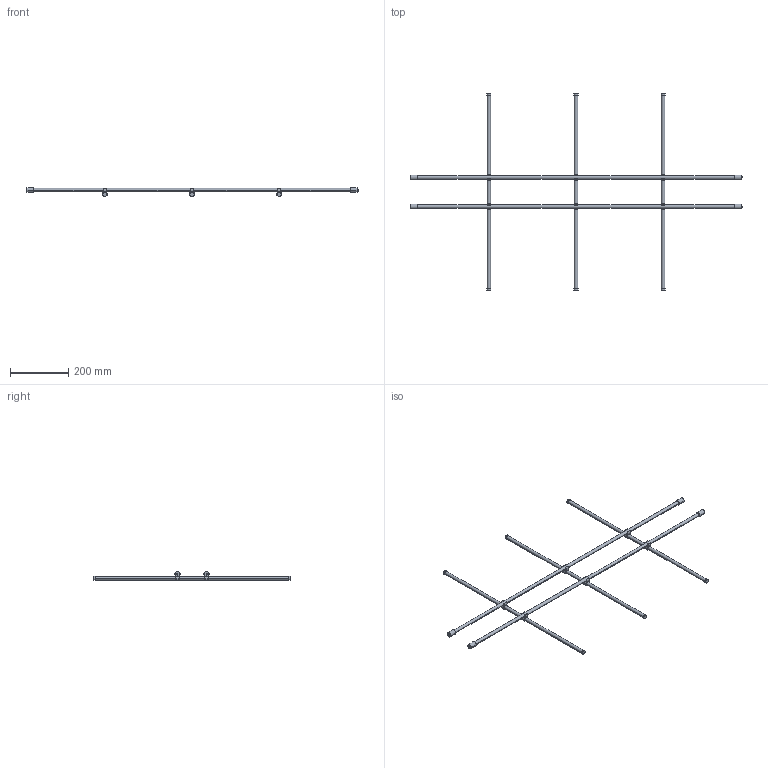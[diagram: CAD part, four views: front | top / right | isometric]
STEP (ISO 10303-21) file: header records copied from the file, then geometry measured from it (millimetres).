
FILE_DESCRIPTION (( 'STEP AP214' ), '1' );
FILE_NAME ('Magic-Classic_NL-710-KAB 1200.step', '2010-09-16T12:49:51', ( 'grass' ), ( '' ), 'SwSTEP 2.0', 'SolidWorks 2010', '' );
FILE_SCHEMA (( 'AUTOMOTIVE_DESIGN' ));
Length unit declared in the file: millimetre
Products named in the file (1): Magic-Classic_NL-710-KAB 1200
Bounding box: 1143 x 675 x 30.45 mm (x, y, z)
Volume: 511565.2 mm3; surface area: 170347.1 mm2
Topology: 1 solids, 1 shells, 190 faces, 534 edges, 356 vertices
Faces by surface type: plane 104, cylinder 86
Entity records: 6260 total; most frequent: DIRECTION 1136, CARTESIAN_POINT 1081, ORIENTED_EDGE 1068, EDGE_CURVE 534, AXIS2_PLACEMENT_3D 411, VERTEX_POINT 356, LINE 314, VECTOR 314
